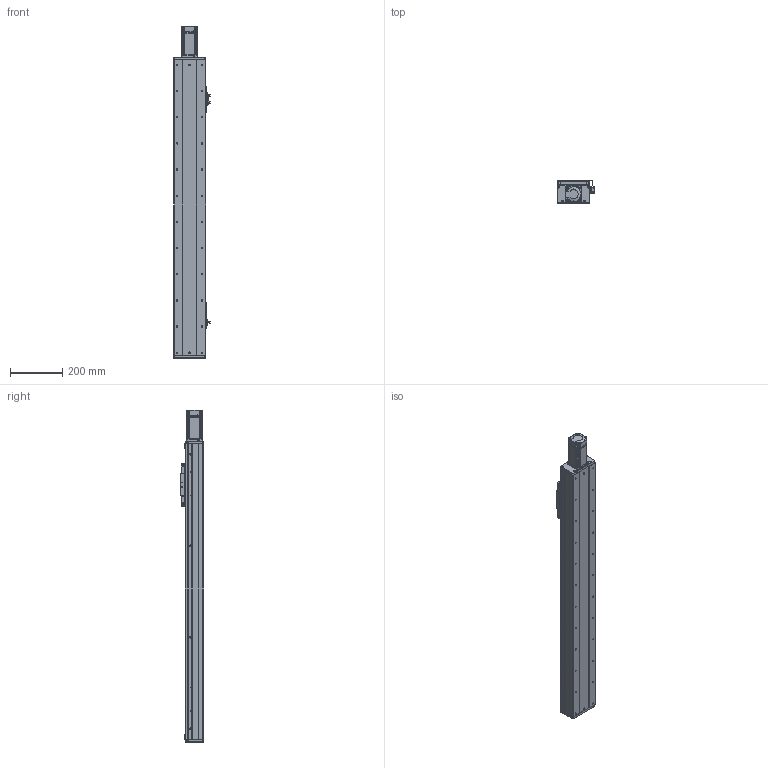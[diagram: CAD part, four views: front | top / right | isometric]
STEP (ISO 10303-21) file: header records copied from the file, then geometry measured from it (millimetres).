
FILE_DESCRIPTION (( 'STEP AP203' ), '1' );
FILE_NAME ('RY120F-L1620-300-MK.SLDASM_850.step', '2021-03-02T06:02:23', ( '盈信电脑' ), ( '东莞市道滘镇水果街19号' ), 'SwSTEP 2.0', 'SolidWorks 2012', '' );
FILE_SCHEMA (( 'CONFIG_CONTROL_DESIGN' ));
Length unit declared in the file: millimetre
Products named in the file (18): RY80俋离覜茼え; 672嫖萇羲壽假蚾釱; FY120F詩湍揤踡輸; 覜茼ん672; 滅袉蝶18-28; RY120F-L1620-300-MK.SLDASM_850; RY120F-臏賑輸 16蹟譫; 滅袉蝶18-24; RY120F-詩湍幗謫粣; RY120F綴裔啣(臏璃ㄘ; RY120F祥凄詩滅鳥裔; RY120F眻蟀ヶ裔啣; 侂狟400W侜督萇儂; 15; RY120F-300-倰第菁釱_850; RY120F-臏賑輸奻釱; RY120F-300-倰第裔啣_850; RY120F滅鳥詩湍-300-MK_850
Assembly tree (23 placements, depth 3):
  RY120F-L1620-300-MK.SLDASM_850
    RY120F-300-倰第菁釱_850
    RY120F-300-倰第裔啣_850  x2
    RY120F滅鳥詩湍-300-MK_850
    RY120F-臏賑輸奻釱
    侂狟400W侜督萇儂
      15
    RY120F眻蟀ヶ裔啣
    RY120F祥凄詩滅鳥裔
    滅袉蝶18-24
    RY120F綴裔啣(臏璃ㄘ
    RY120F-詩湍幗謫粣
    覜茼ん672  x3
    672嫖萇羲壽假蚾釱  x2
    RY80俋离覜茼え
    FY120F詩湍揤踡輸  x2
    RY120F-臏賑輸 16蹟譫
    滅袉蝶18-28  x2
Bounding box: 140.35 x 89 x 1268.5 mm (x, y, z)
Volume: 3811426.5 mm3; surface area: 1360488.4 mm2
Topology: 22 solids, 22 shells, 1993 faces, 5373 edges, 3435 vertices
Faces by surface type: cylinder 898, plane 858, cone 219, bspline 18
Entity records: 55507 total; most frequent: CARTESIAN_POINT 9955, DIRECTION 9429, ORIENTED_EDGE 8810, EDGE_CURVE 4405, AXIS2_PLACEMENT_3D 3419, VERTEX_POINT 2879, VECTOR 2591, LINE 2591
